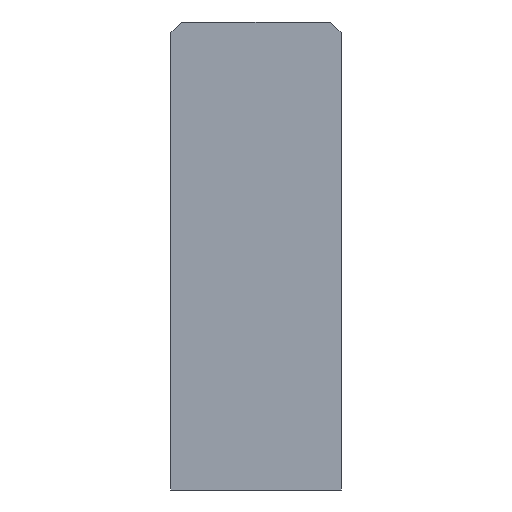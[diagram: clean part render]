
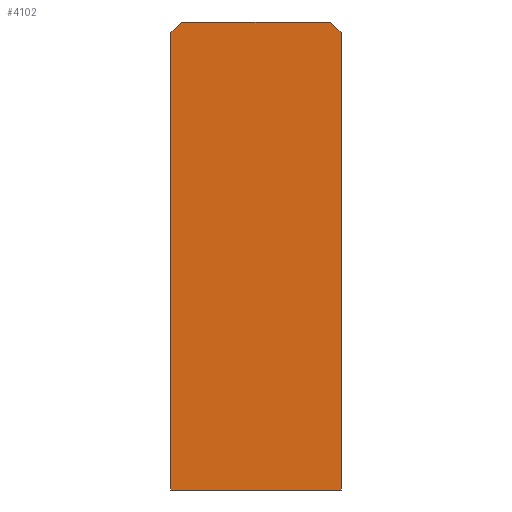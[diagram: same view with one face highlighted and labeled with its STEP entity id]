
A CAD part, left-side view. The second image highlights one B-rep face of the part: STEP entity #4102.
In plain terms, the highlighted planar face has unit normal (-1, 0, 0).
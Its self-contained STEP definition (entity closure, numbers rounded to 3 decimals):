
#168=PLANE('',#4361);
#320=LINE('',#40568,#618);
#324=LINE('',#40575,#622);
#330=LINE('',#40587,#628);
#332=LINE('',#40591,#630);
#333=LINE('',#40594,#631);
#335=LINE('',#40597,#633);
#618=VECTOR('',#4797,0.707);
#622=VECTOR('',#4803,7.);
#628=VECTOR('',#4813,0.707);
#630=VECTOR('',#4817,21.5);
#631=VECTOR('',#4820,8.);
#633=VECTOR('',#4824,21.5);
#991=FACE_OUTER_BOUND('',#1251,.T.);
#1251=EDGE_LOOP('',(#3022,#3023,#3024,#3025,#3026,#3027));
#1801=VERTEX_POINT('',#40565);
#1802=VERTEX_POINT('',#40567);
#1804=VERTEX_POINT('',#40573);
#1808=VERTEX_POINT('',#40585);
#1809=VERTEX_POINT('',#40589);
#1810=VERTEX_POINT('',#40593);
#2245=EDGE_CURVE('',#1801,#1802,#320,.T.);
#2249=EDGE_CURVE('',#1804,#1801,#324,.T.);
#2255=EDGE_CURVE('',#1808,#1804,#330,.T.);
#2257=EDGE_CURVE('',#1809,#1808,#332,.T.);
#2258=EDGE_CURVE('',#1810,#1809,#333,.T.);
#2260=EDGE_CURVE('',#1802,#1810,#335,.T.);
#3022=ORIENTED_EDGE('',*,*,#2245,.F.);
#3023=ORIENTED_EDGE('',*,*,#2249,.F.);
#3024=ORIENTED_EDGE('',*,*,#2255,.F.);
#3025=ORIENTED_EDGE('',*,*,#2257,.F.);
#3026=ORIENTED_EDGE('',*,*,#2258,.F.);
#3027=ORIENTED_EDGE('',*,*,#2260,.F.);
#4102=ADVANCED_FACE('',(#991),#168,.F.);
#4361=AXIS2_PLACEMENT_3D('',#40598,#4825,#4826);
#4797=DIRECTION('',(0.,-0.707,-0.707));
#4803=DIRECTION('',(0.,-1.,0.));
#4813=DIRECTION('',(0.,-0.707,0.707));
#4817=DIRECTION('',(0.,0.,1.));
#4820=DIRECTION('',(0.,1.,0.));
#4824=DIRECTION('',(0.,0.,-1.));
#4825=DIRECTION('center_axis',(1.,0.,0.));
#4826=DIRECTION('ref_axis',(0.,-1.,0.));
#40565=CARTESIAN_POINT('',(-5.,-3.5,0.));
#40567=CARTESIAN_POINT('',(-5.,-4.,-0.5));
#40568=CARTESIAN_POINT('',(-5.,-5.5,-2.));
#40573=CARTESIAN_POINT('',(-5.,3.5,0.));
#40575=CARTESIAN_POINT('',(-5.,4.,0.));
#40585=CARTESIAN_POINT('',(-5.,4.,-0.5));
#40587=CARTESIAN_POINT('',(-5.,5.5,-2.));
#40589=CARTESIAN_POINT('',(-5.,4.,-22.));
#40591=CARTESIAN_POINT('',(-5.,4.,-22.));
#40593=CARTESIAN_POINT('',(-5.,-4.,-22.));
#40594=CARTESIAN_POINT('',(-5.,-4.,-22.));
#40597=CARTESIAN_POINT('',(-5.,-4.,0.));
#40598=CARTESIAN_POINT('Origin',(-5.,0.,-11.));
